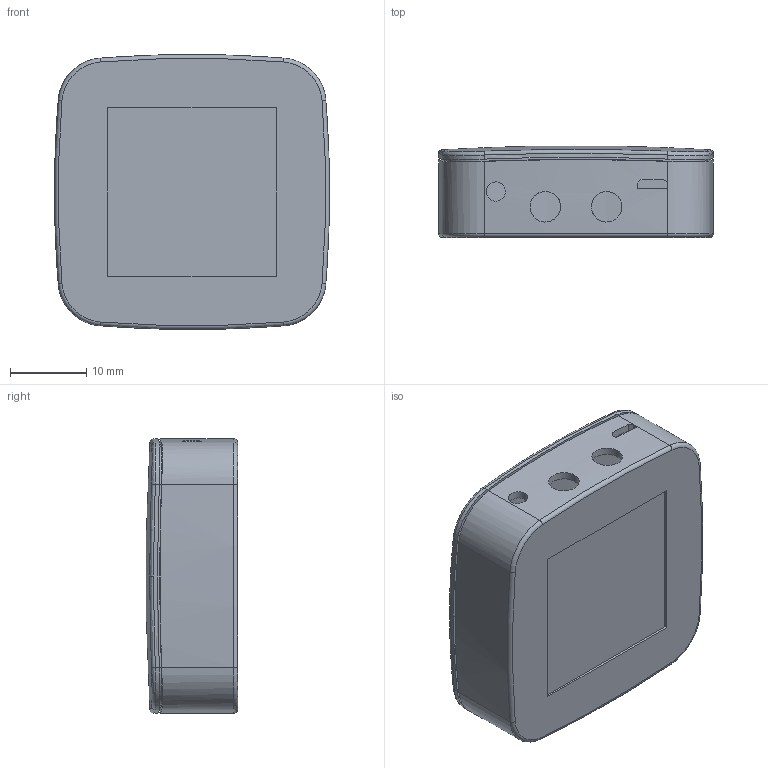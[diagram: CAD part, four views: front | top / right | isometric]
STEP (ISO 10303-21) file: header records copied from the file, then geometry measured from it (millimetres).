
FILE_DESCRIPTION((''),'2;1');
FILE_NAME('BR_ASM','2019-04-20T',('Administrator'),(''),'PRO/ENGINEER BY PARAMETRIC TECHNOLOGY CORPORATION, 2014000','PRO/ENGINEER BY PARAMETRIC TECHNOLOGY CORPORATION, 2014000','');
FILE_SCHEMA(('AUTOMOTIVE_DESIGN { 1 0 10303 214 1 1 1 1 }'));
Length unit declared in the file: millimetre
Products named in the file (3): BR-COVER; BR-BASE; BR_ASM
Assembly tree (2 placements, depth 2):
  BR_ASM
    BR-COVER
    BR-BASE
Bounding box: 36 x 11.95 x 35.99 mm (x, y, z)
Volume: 3413.2 mm3; surface area: 7630.7 mm2
Topology: 2 solids, 2 shells, 119 faces, 319 edges, 206 vertices
Faces by surface type: cylinder 62, plane 30, bspline 10, sphere 9, torus 8
Entity records: 5731 total; most frequent: CARTESIAN_POINT 2306, ORIENTED_EDGE 638, DIRECTION 569, EDGE_CURVE 319, AXIS2_PLACEMENT_3D 227, VERTEX_POINT 206, EDGE_LOOP 131, PRESENTATION_STYLE_ASSIGNMENT 128
